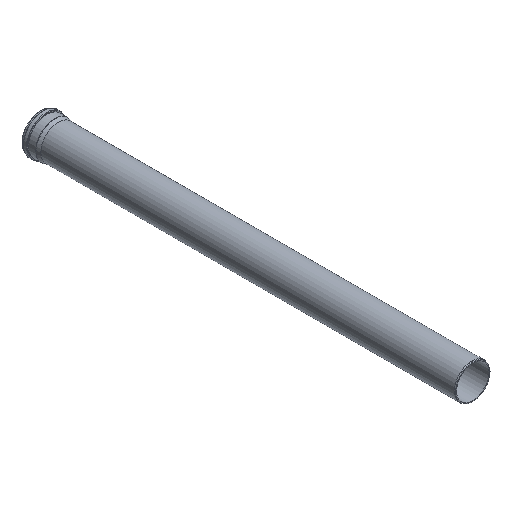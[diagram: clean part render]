
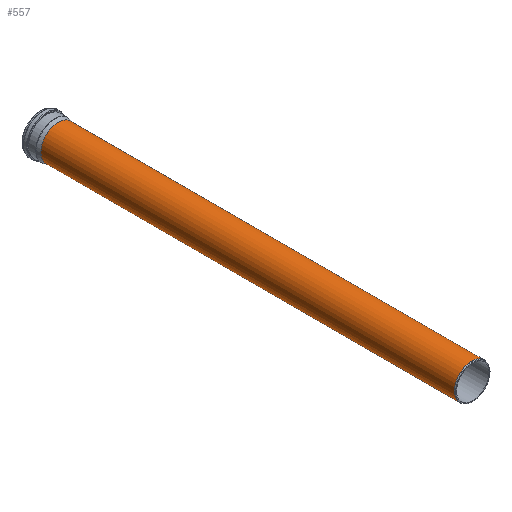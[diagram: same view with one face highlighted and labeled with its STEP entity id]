
A CAD part, isometric view. The second image highlights one B-rep face of the part: STEP entity #557.
In plain terms, the highlighted cylindrical face has radius 250 mm (diameter 500 mm), a full revolution.
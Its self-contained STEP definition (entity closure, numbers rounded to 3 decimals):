
#54=FACE_OUTER_BOUND('',#87,.T.);
#87=EDGE_LOOP('',(#430,#431,#432,#433));
#117=LINE('',#1006,#135);
#135=VECTOR('',#799,250.);
#174=CIRCLE('',#641,250.);
#175=CIRCLE('',#643,250.);
#239=VERTEX_POINT('',#1000);
#240=VERTEX_POINT('',#1004);
#307=EDGE_CURVE('',#239,#239,#174,.T.);
#309=EDGE_CURVE('',#240,#240,#175,.T.);
#310=EDGE_CURVE('',#240,#239,#117,.T.);
#430=ORIENTED_EDGE('',*,*,#309,.F.);
#431=ORIENTED_EDGE('',*,*,#310,.T.);
#432=ORIENTED_EDGE('',*,*,#307,.T.);
#433=ORIENTED_EDGE('',*,*,#310,.F.);
#540=CYLINDRICAL_SURFACE('',#642,250.);
#557=ADVANCED_FACE('',(#54),#540,.T.);
#641=AXIS2_PLACEMENT_3D('',#1001,#792,#793);
#642=AXIS2_PLACEMENT_3D('',#1003,#795,#796);
#643=AXIS2_PLACEMENT_3D('',#1005,#797,#798);
#792=DIRECTION('center_axis',(0.,-1.,0.));
#793=DIRECTION('ref_axis',(1.,0.,0.));
#795=DIRECTION('center_axis',(0.,-1.,0.));
#796=DIRECTION('ref_axis',(-1.,0.,0.));
#797=DIRECTION('center_axis',(0.,-1.,0.));
#798=DIRECTION('ref_axis',(1.,0.,0.));
#799=DIRECTION('',(0.,1.,0.));
#1000=CARTESIAN_POINT('',(250.,5944.019,0.));
#1001=CARTESIAN_POINT('Origin',(0.,5944.019,0.));
#1003=CARTESIAN_POINT('Origin',(0.,2979.51,0.));
#1004=CARTESIAN_POINT('',(250.,15.,0.));
#1005=CARTESIAN_POINT('Origin',(0.,15.,0.));
#1006=CARTESIAN_POINT('',(250.,2979.51,0.));
